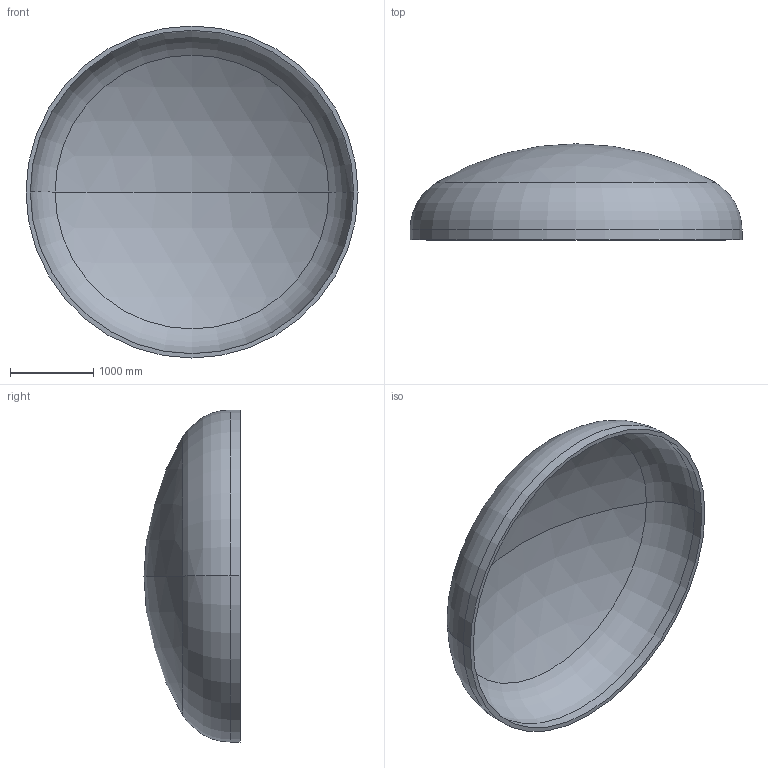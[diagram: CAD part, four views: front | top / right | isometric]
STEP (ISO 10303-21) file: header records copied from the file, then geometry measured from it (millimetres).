
FILE_DESCRIPTION (( 'STEP AP203' ), '1' );
FILE_NAME ('DIN 28013 Korbbogenform_-_Boden DIN 28013 - 4000 x 120 - I - s=52.step', '2016-07-01T22:30:39', ( '' ), ( '' ), 'SwSTEP 2.0', 'SolidWorks 2013', '' );
FILE_SCHEMA (( 'CONFIG_CONTROL_DESIGN' ));
Length unit declared in the file: millimetre
Products named in the file (1): DIN 28013 Korbbogenform_-_Boden DIN 28013 - 4000 x 120 - I - s=52
Bounding box: 4000 x 1157.2 x 4000 mm (x, y, z)
Volume: 966713093.5 mm3; surface area: 37831878.9 mm2
Topology: 1 solids, 1 shells, 13 faces, 24 edges, 14 vertices
Faces by surface type: torus 4, cylinder 4, sphere 4, plane 1
Entity records: 407 total; most frequent: DIRECTION 72, CARTESIAN_POINT 52, ORIENTED_EDGE 48, AXIS2_PLACEMENT_3D 34, EDGE_CURVE 24, CIRCLE 20, EDGE_LOOP 14, VERTEX_POINT 14
